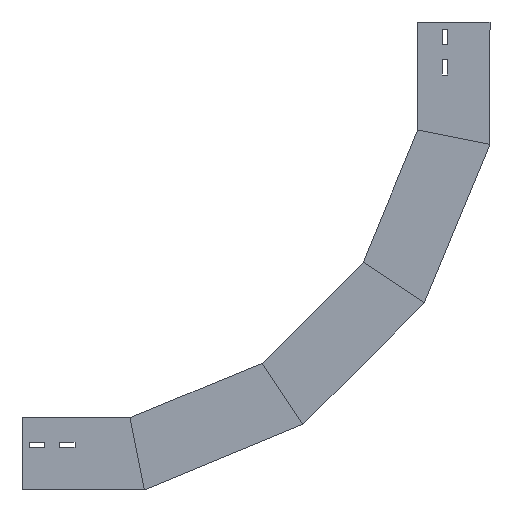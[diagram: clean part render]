
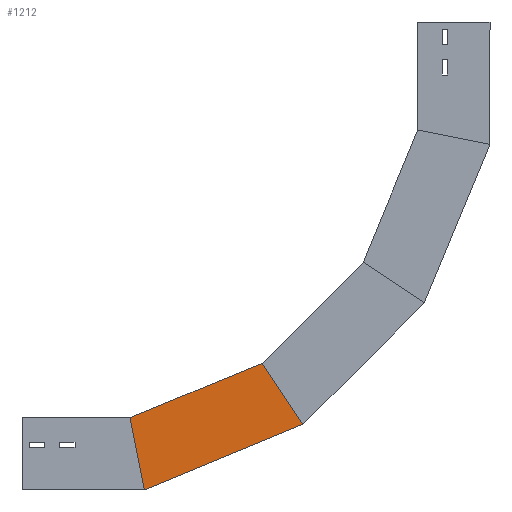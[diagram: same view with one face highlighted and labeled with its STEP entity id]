
A CAD part, left-side view. The second image highlights one B-rep face of the part: STEP entity #1212.
In plain terms, the highlighted planar face has unit normal (-1, 0, 0) as drawn and (1, 0, 0) by its records, which use the part's own axes.
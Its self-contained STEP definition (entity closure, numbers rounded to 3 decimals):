
#40 = CARTESIAN_POINT ( 'NONE',  ( 0., 175.893, -332.93 ) ) ;
#212 = VERTEX_POINT ( 'NONE', #1214 ) ;
#218 = EDGE_CURVE ( 'NONE', #212, #1726, #443, .T. ) ;
#239 = AXIS2_PLACEMENT_3D ( 'NONE', #1735, #1755, #410 ) ;
#281 = CARTESIAN_POINT ( 'NONE',  ( 0., 91.117, -389.576 ) ) ;
#410 = DIRECTION ( 'NONE',  ( 0., 0., 1. ) ) ;
#412 = VECTOR ( 'NONE', #1335, 1000. ) ;
#429 = DIRECTION ( 'NONE',  ( 0., -0.981, -0.195 ) ) ;
#443 = LINE ( 'NONE', #1619, #412 ) ;
#550 = PLANE ( 'NONE',  #239 ) ;
#561 = ORIENTED_EDGE ( 'NONE', *, *, #673, .T. ) ;
#673 = EDGE_CURVE ( 'NONE', #1665, #1243, #1700, .T. ) ;
#721 = CARTESIAN_POINT ( 'NONE',  ( 0., 0., -169.6 ) ) ;
#742 = LINE ( 'NONE', #893, #1078 ) ;
#808 = VECTOR ( 'NONE', #429, 1000. ) ;
#840 = DIRECTION ( 'NONE',  ( 0., 0.383, -0.924 ) ) ;
#888 = ORIENTED_EDGE ( 'NONE', *, *, #1613, .T. ) ;
#893 = CARTESIAN_POINT ( 'NONE',  ( 0., 129.74, -363.769 ) ) ;
#894 = ORIENTED_EDGE ( 'NONE', *, *, #1274, .F. ) ;
#1078 = VECTOR ( 'NONE', #1593, 1000. ) ;
#1117 = CARTESIAN_POINT ( 'NONE',  ( 0., 0., -169.6 ) ) ;
#1129 = LINE ( 'NONE', #1292, #808 ) ;
#1172 = FACE_OUTER_BOUND ( 'NONE', #1828, .T. ) ;
#1212 = ADVANCED_FACE ( 'NONE', ( #1172 ), #550, .F. ) ;
#1214 = CARTESIAN_POINT ( 'NONE',  ( 0., 100., -149.709 ) ) ;
#1243 = VERTEX_POINT ( 'NONE', #281 ) ;
#1274 = EDGE_CURVE ( 'NONE', #1726, #1243, #742, .T. ) ;
#1292 = CARTESIAN_POINT ( 'NONE',  ( 0., 32.452, -163.145 ) ) ;
#1335 = DIRECTION ( 'NONE',  ( 0., 0.383, -0.924 ) ) ;
#1593 = DIRECTION ( 'NONE',  ( 0., -0.831, -0.556 ) ) ;
#1613 = EDGE_CURVE ( 'NONE', #212, #1665, #1129, .T. ) ;
#1619 = CARTESIAN_POINT ( 'NONE',  ( 0., 92.388, -131.332 ) ) ;
#1643 = ORIENTED_EDGE ( 'NONE', *, *, #218, .F. ) ;
#1665 = VERTEX_POINT ( 'NONE', #721 ) ;
#1700 = LINE ( 'NONE', #1117, #1871 ) ;
#1726 = VERTEX_POINT ( 'NONE', #40 ) ;
#1735 = CARTESIAN_POINT ( 'NONE',  ( 0., 0., -169.6 ) ) ;
#1755 = DIRECTION ( 'NONE',  ( -1., 0., 0. ) ) ;
#1828 = EDGE_LOOP ( 'NONE', ( #1643, #888, #561, #894 ) ) ;
#1871 = VECTOR ( 'NONE', #840, 1000. ) ;
